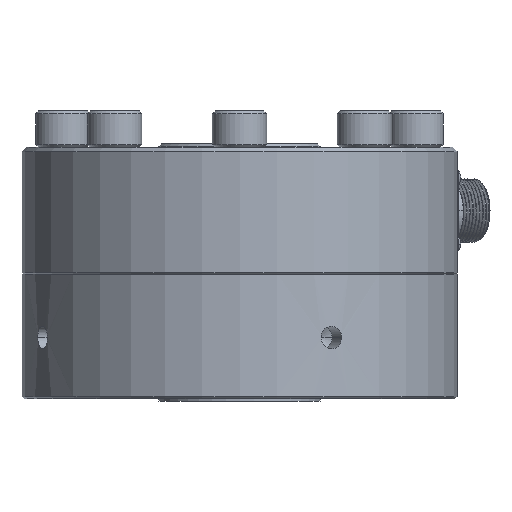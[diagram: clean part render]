
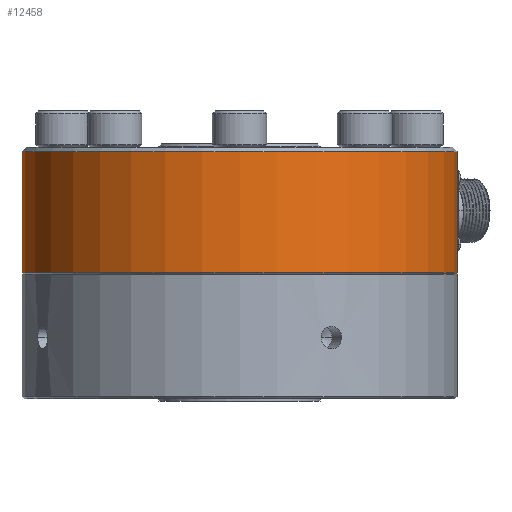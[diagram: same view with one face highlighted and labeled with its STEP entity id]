
A CAD part, front view. The second image highlights one B-rep face of the part: STEP entity #12458.
In plain terms, the highlighted cylindrical face has radius 76.2 mm (diameter 152.4 mm), a partial arc.
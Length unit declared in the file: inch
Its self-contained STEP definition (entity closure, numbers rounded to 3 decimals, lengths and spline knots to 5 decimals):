
#1691 = CARTESIAN_POINT ( 'NONE',  ( 3., 0., -1.73438 ) ) ;
#2285 = LINE ( 'NONE', #2286, #2287 ) ;
#2286 = CARTESIAN_POINT ( 'NONE',  ( 3., 0., -0.06 ) ) ;
#2287 = VECTOR ( 'NONE', #2292, 39.37008 ) ;
#2292 = DIRECTION ( 'NONE',  ( 0., 0., -1. ) ) ;
#3179 = EDGE_LOOP ( 'NONE', ( #12348, #12256, #12159, #12074 ) ) ;
#3246 = CIRCLE ( 'NONE', #3247, 3. ) ;
#3247 = AXIS2_PLACEMENT_3D ( 'NONE', #3248, #3249, #3250 ) ;
#3248 = CARTESIAN_POINT ( 'NONE',  ( 0., 0., -1.73438 ) ) ;
#3249 = DIRECTION ( 'NONE',  ( 0., 0., 1. ) ) ;
#3250 = DIRECTION ( 'NONE',  ( 0., -1., 0. ) ) ;
#3351 = CARTESIAN_POINT ( 'NONE',  ( -3., 0., -0.06 ) ) ;
#3507 = CARTESIAN_POINT ( 'NONE',  ( 3., 0., -0.06 ) ) ;
#3829 = VERTEX_POINT ( 'NONE', #1691 ) ;
#5409 = VERTEX_POINT ( 'NONE', #3351 ) ;
#5643 = VERTEX_POINT ( 'NONE', #3507 ) ;
#5841 = FACE_OUTER_BOUND ( 'NONE', #3179, .T. ) ;
#5842 = CYLINDRICAL_SURFACE ( 'NONE', #5843, 3. ) ;
#5843 = AXIS2_PLACEMENT_3D ( 'NONE', #5844, #5845, #5846 ) ;
#5844 = CARTESIAN_POINT ( 'NONE',  ( 0., 0., -0.06 ) ) ;
#5845 = DIRECTION ( 'NONE',  ( 0., 0., -1. ) ) ;
#5846 = DIRECTION ( 'NONE',  ( -1., 0., 0. ) ) ;
#6125 = CIRCLE ( 'NONE', #6126, 3. ) ;
#6126 = AXIS2_PLACEMENT_3D ( 'NONE', #6127, #6128, #6129 ) ;
#6127 = CARTESIAN_POINT ( 'NONE',  ( 0., 0., -0.06 ) ) ;
#6128 = DIRECTION ( 'NONE',  ( 0., 0., 1. ) ) ;
#6129 = DIRECTION ( 'NONE',  ( 0., 1., 0. ) ) ;
#7988 = CARTESIAN_POINT ( 'NONE',  ( -3., 0., -1.73438 ) ) ;
#10521 = VERTEX_POINT ( 'NONE', #7988 ) ;
#11636 = EDGE_CURVE ( 'NONE', #5409, #10521, #14087, .T. ) ;
#11876 = EDGE_CURVE ( 'NONE', #5643, #3829, #2285, .T. ) ;
#12014 = EDGE_CURVE ( 'NONE', #10521, #3829, #3246, .T. ) ;
#12074 = ORIENTED_EDGE ( 'NONE', *, *, #12014, .T. ) ;
#12159 = ORIENTED_EDGE ( 'NONE', *, *, #11636, .T. ) ;
#12256 = ORIENTED_EDGE ( 'NONE', *, *, #12755, .F. ) ;
#12348 = ORIENTED_EDGE ( 'NONE', *, *, #11876, .F. ) ;
#12458 = ADVANCED_FACE ( 'NONE', ( #5841 ), #5842, .T. ) ;
#12755 = EDGE_CURVE ( 'NONE', #5409, #5643, #6125, .T. ) ;
#14087 = LINE ( 'NONE', #14088, #14089 ) ;
#14088 = CARTESIAN_POINT ( 'NONE',  ( -3., 0., -0.06 ) ) ;
#14089 = VECTOR ( 'NONE', #14090, 39.37008 ) ;
#14090 = DIRECTION ( 'NONE',  ( 0., 0., -1. ) ) ;
